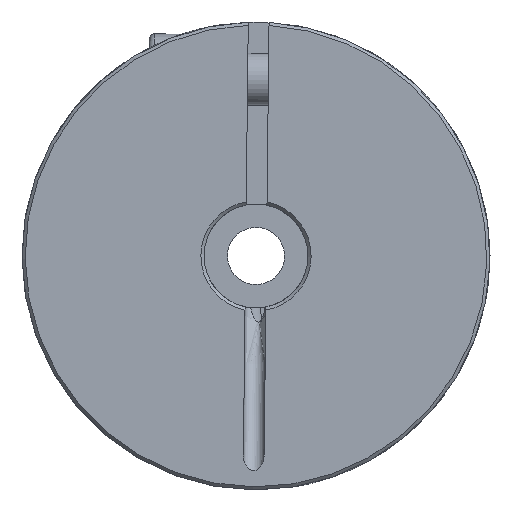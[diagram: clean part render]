
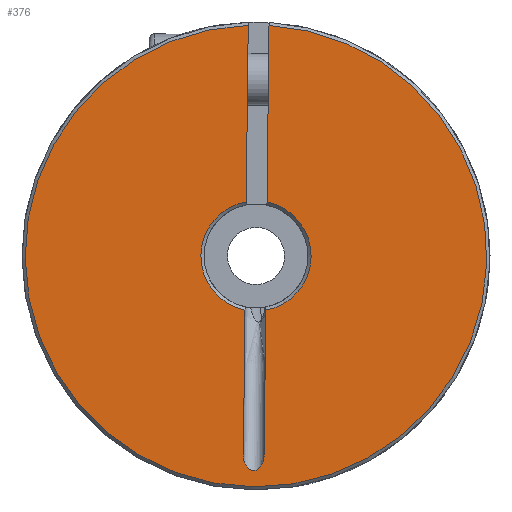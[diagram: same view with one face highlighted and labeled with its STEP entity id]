
A CAD part, left-side view. The second image highlights one B-rep face of the part: STEP entity #376.
In plain terms, the highlighted planar face has unit normal (-1, 0, 0).
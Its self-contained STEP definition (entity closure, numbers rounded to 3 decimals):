
#376 = ADVANCED_FACE( 'NONE', ( #815 ), #816, .F. );
#815 = FACE_OUTER_BOUND( '', #1790, .T. );
#816 = PLANE( '', #1791 );
#1790 = EDGE_LOOP( '', ( #2491, #2492, #2493, #2494, #2495, #2496, #2497, #2498 ) );
#1791 = AXIS2_PLACEMENT_3D( '', #2499, #2500, #2501 );
#2491 = ORIENTED_EDGE( '', *, *, #3061, .F. );
#2492 = ORIENTED_EDGE( '', *, *, #3062, .T. );
#2493 = ORIENTED_EDGE( '', *, *, #3063, .T. );
#2494 = ORIENTED_EDGE( '', *, *, #3064, .T. );
#2495 = ORIENTED_EDGE( '', *, *, #3065, .T. );
#2496 = ORIENTED_EDGE( '', *, *, #3066, .T. );
#2497 = ORIENTED_EDGE( '', *, *, #2988, .F. );
#2498 = ORIENTED_EDGE( '', *, *, #3067, .T. );
#2499 = CARTESIAN_POINT( '', ( 0., 5., 0. ) );
#2500 = DIRECTION( '', ( 1., 0., 0. ) );
#2501 = DIRECTION( '', ( 0., 1., 0. ) );
#2988 = EDGE_CURVE( 'NONE', #3381, #3383, #3384, .F. );
#3061 = EDGE_CURVE( 'NONE', #3482, #3483, #3484, .F. );
#3062 = EDGE_CURVE( 'NONE', #3482, #3485, #3486, .T. );
#3063 = EDGE_CURVE( 'NONE', #3485, #3487, #3488, .T. );
#3064 = EDGE_CURVE( 'NONE', #3487, #3489, #3490, .T. );
#3065 = EDGE_CURVE( 'NONE', #3489, #3491, #3492, .T. );
#3066 = EDGE_CURVE( 'NONE', #3491, #3383, #3493, .F. );
#3067 = EDGE_CURVE( 'NONE', #3381, #3483, #3494, .T. );
#3381 = VERTEX_POINT( 'NONE', #4018 );
#3383 = VERTEX_POINT( 'NONE', #4023 );
#3384 = LINE( '', #4024, #4025 );
#3482 = VERTEX_POINT( 'NONE', #4168 );
#3483 = VERTEX_POINT( 'NONE', #4169 );
#3484 = LINE( '', #4170, #4171 );
#3485 = VERTEX_POINT( 'NONE', #4172 );
#3486 = B_SPLINE_CURVE_WITH_KNOTS( '', 3, ( #4173, #4174, #4175, #4176, #4177, #4178, #4179, #4180, #4181, #4182, #4183, #4184, #4185, #4186, #4187, #4188, #4189, #4190 ), .UNSPECIFIED., .F., .F., ( 4, 2, 2, 2, 2, 2, 2, 2, 4 ), ( 0., 0., 0.001, 0.001, 0.002, 0.002, 0.003, 0.003, 0.004 ), .UNSPECIFIED. );
#3487 = VERTEX_POINT( 'NONE', #4191 );
#3488 = LINE( '', #4192, #4193 );
#3489 = VERTEX_POINT( 'NONE', #4194 );
#3490 = CIRCLE( '', #4195, 5.3 );
#3491 = VERTEX_POINT( 'NONE', #4196 );
#3492 = LINE( '', #4197, #4198 );
#3493 = CIRCLE( '', #4199, 22.2 );
#3494 = CIRCLE( '', #4200, 5.3 );
#4018 = CARTESIAN_POINT( '', ( 0., -1., 5.205 ) );
#4023 = CARTESIAN_POINT( '', ( 0., -1., 22.177 ) );
#4024 = CARTESIAN_POINT( '', ( 0., -1., 13. ) );
#4025 = VECTOR( '', #4555, 1000. );
#4168 = CARTESIAN_POINT( '', ( 0., -1., -19.125 ) );
#4169 = CARTESIAN_POINT( '', ( 0., -1., -5.205 ) );
#4170 = CARTESIAN_POINT( '', ( 0., -1., 13. ) );
#4171 = VECTOR( '', #4628, 1000. );
#4172 = CARTESIAN_POINT( '', ( 0., 1., -19.125 ) );
#4173 = CARTESIAN_POINT( '', ( 0., -1., -19.125 ) );
#4174 = CARTESIAN_POINT( '', ( 0., -1., -19.291 ) );
#4175 = CARTESIAN_POINT( '', ( 0., -0.983, -19.455 ) );
#4176 = CARTESIAN_POINT( '', ( 0., -0.91, -19.775 ) );
#4177 = CARTESIAN_POINT( '', ( 0., -0.854, -19.934 ) );
#4178 = CARTESIAN_POINT( '', ( 0., -0.697, -20.225 ) );
#4179 = CARTESIAN_POINT( '', ( 0., -0.593, -20.36 ) );
#4180 = CARTESIAN_POINT( '', ( 0., -0.33, -20.564 ) );
#4181 = CARTESIAN_POINT( '', ( 0., -0.169, -20.63 ) );
#4182 = CARTESIAN_POINT( '', ( 0., 0.168, -20.63 ) );
#4183 = CARTESIAN_POINT( '', ( 0., 0.328, -20.566 ) );
#4184 = CARTESIAN_POINT( '', ( 0., 0.592, -20.361 ) );
#4185 = CARTESIAN_POINT( '', ( 0., 0.695, -20.227 ) );
#4186 = CARTESIAN_POINT( '', ( 0., 0.854, -19.936 ) );
#4187 = CARTESIAN_POINT( '', ( 0., 0.909, -19.78 ) );
#4188 = CARTESIAN_POINT( '', ( 0., 0.983, -19.456 ) );
#4189 = CARTESIAN_POINT( '', ( 0., 1., -19.291 ) );
#4190 = CARTESIAN_POINT( '', ( 0., 1., -19.125 ) );
#4191 = CARTESIAN_POINT( '', ( 0., 1., -5.205 ) );
#4192 = CARTESIAN_POINT( '', ( 0., 1., 0. ) );
#4193 = VECTOR( '', #4629, 1000. );
#4194 = CARTESIAN_POINT( '', ( 0., 1., 5.205 ) );
#4195 = AXIS2_PLACEMENT_3D( '', #4630, #4631, #4632 );
#4196 = CARTESIAN_POINT( '', ( 0., 1., 22.177 ) );
#4197 = CARTESIAN_POINT( '', ( 0., 1., 0. ) );
#4198 = VECTOR( '', #4633, 1000. );
#4199 = AXIS2_PLACEMENT_3D( '', #4634, #4635, #4636 );
#4200 = AXIS2_PLACEMENT_3D( '', #4637, #4638, #4639 );
#4555 = DIRECTION( '', ( 0., 0., -1. ) );
#4628 = DIRECTION( '', ( 0., 0., -1. ) );
#4629 = DIRECTION( '', ( 0., 0., 1. ) );
#4630 = CARTESIAN_POINT( '', ( 0., 0., 0. ) );
#4631 = DIRECTION( '', ( 1., 0., 0. ) );
#4632 = DIRECTION( '', ( 0., 0., -1. ) );
#4633 = DIRECTION( '', ( 0., 0., 1. ) );
#4634 = CARTESIAN_POINT( '', ( 0., 0., 0. ) );
#4635 = DIRECTION( '', ( 1., 0., 0. ) );
#4636 = DIRECTION( '', ( 0., 0., -1. ) );
#4637 = CARTESIAN_POINT( '', ( 0., 0., 0. ) );
#4638 = DIRECTION( '', ( 1., 0., 0. ) );
#4639 = DIRECTION( '', ( 0., 0., -1. ) );
